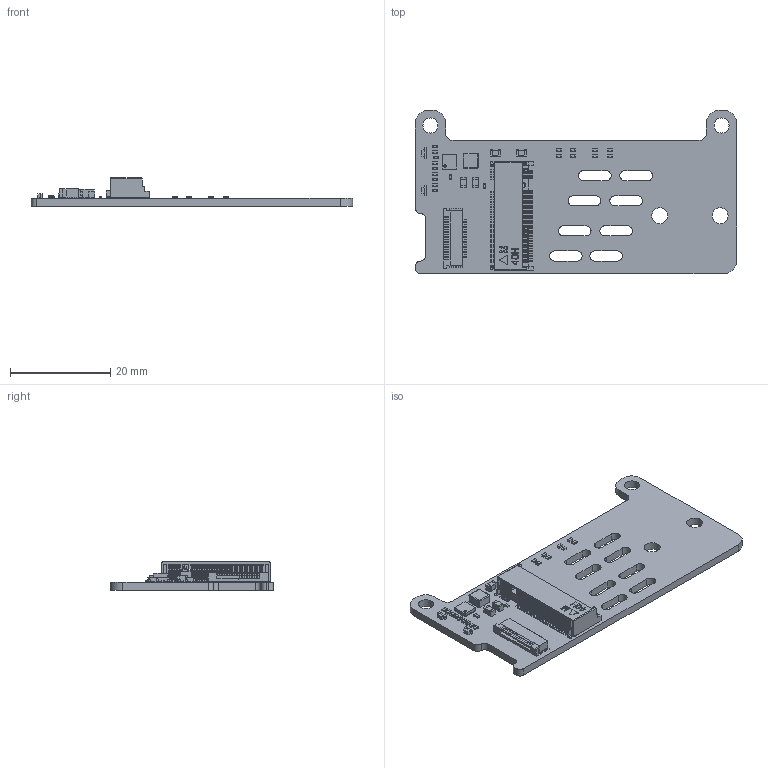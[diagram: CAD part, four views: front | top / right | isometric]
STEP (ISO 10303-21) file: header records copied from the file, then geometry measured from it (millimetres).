
FILE_DESCRIPTION(('KiCad electronic assembly'),'2;1');
FILE_NAME('KAmod-RPI5-M2-mini_wo_mod.step','2024-10-15T12:39:25',( 'Pcbnew'),('Kicad'),'Open CASCADE STEP processor 7.8', 'KiCad to STEP converter','Unknown');
FILE_SCHEMA(('AUTOMOTIVE_DESIGN { 1 0 10303 214 1 1 1 1 }'));
Length unit declared in the file: millimetre
Products named in the file (18): KAmod-RPI5-M2-mini_wo_mod 1; C_0805_2012Metric; R_0402_1005Metric; LED_0603_1608Metric; C_0402_1005Metric; L_Cenker_CKCS3015; 123A-40M00_C_1; TE_1-84953-6_1x16-1MP_P1.0mm_Horizontal; TE_1_84953_6; DFN-8-1EP_3x3mm_P0.65mm_EP1.55x2.4mm; DFN-8-1EP_3x3mm_Pitch0.65mm; KAmod-RPI5-M2-mini_BigHoles_PCB
Assembly tree (38 placements, depth 3):
  KAmod-RPI5-M2-mini_wo_mod 1
    C_0805_2012Metric  x4
      C_0805_2012Metric
    R_0402_1005Metric  x17
      R_0402_1005Metric
    LED_0603_1608Metric  x2
      LED_0603_1608Metric
    C_0402_1005Metric  x2
      C_0402_1005Metric
    L_Cenker_CKCS3015
      L_Cenker_CKCS3015
    123A-40M00_C_1
      123A-40M00_C_1
    TE_1-84953-6_1x16-1MP_P1.0mm_Horizontal
      TE_1_84953_6
    DFN-8-1EP_3x3mm_P0.65mm_EP1.55x2.4mm
      DFN-8-1EP_3x3mm_Pitch0.65mm
    KAmod-RPI5-M2-mini_BigHoles_PCB
Bounding box: 64 x 32.5 x 5.6 mm (x, y, z)
Volume: 2969.8 mm3; surface area: 5874.2 mm2
Topology: 30 solids, 30 shells, 8062 faces, 23481 edges, 15371 vertices
Faces by surface type: plane 5991, cylinder 1683, bspline 380, sphere 4, cone 4
Full cylindrical faces by diameter (mm): 0.5 x1, 1.2 x1, 1.6 x1, 3 x2, 3.2 x2
Entity records: 248836 total; most frequent: CARTESIAN_POINT 46380, ORIENTED_EDGE 43936, DIRECTION 38317, EDGE_CURVE 21968, LINE 17937, VECTOR 17937, VERTEX_POINT 14389, AXIS2_PLACEMENT_3D 10190
